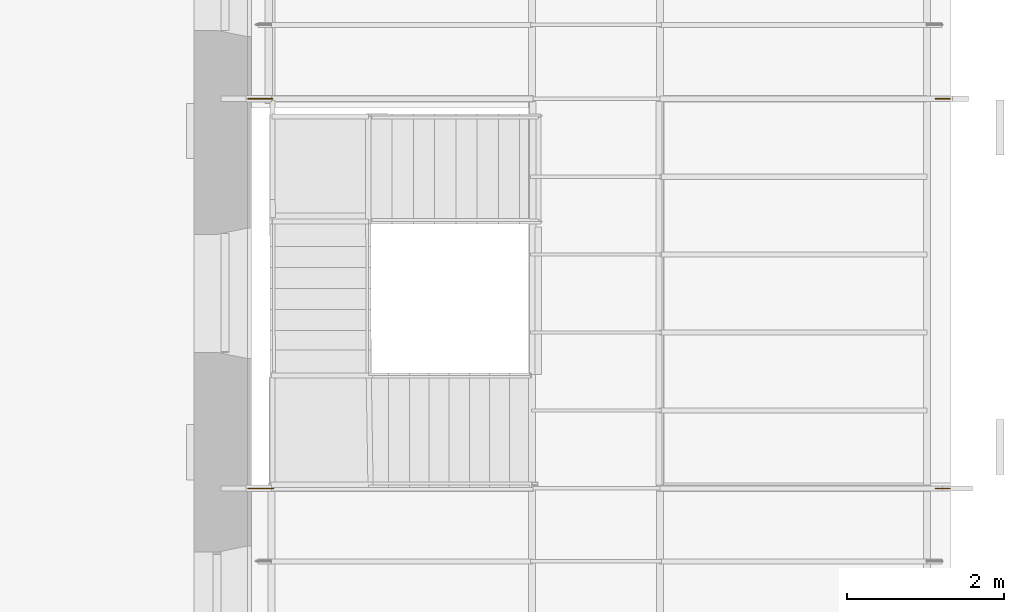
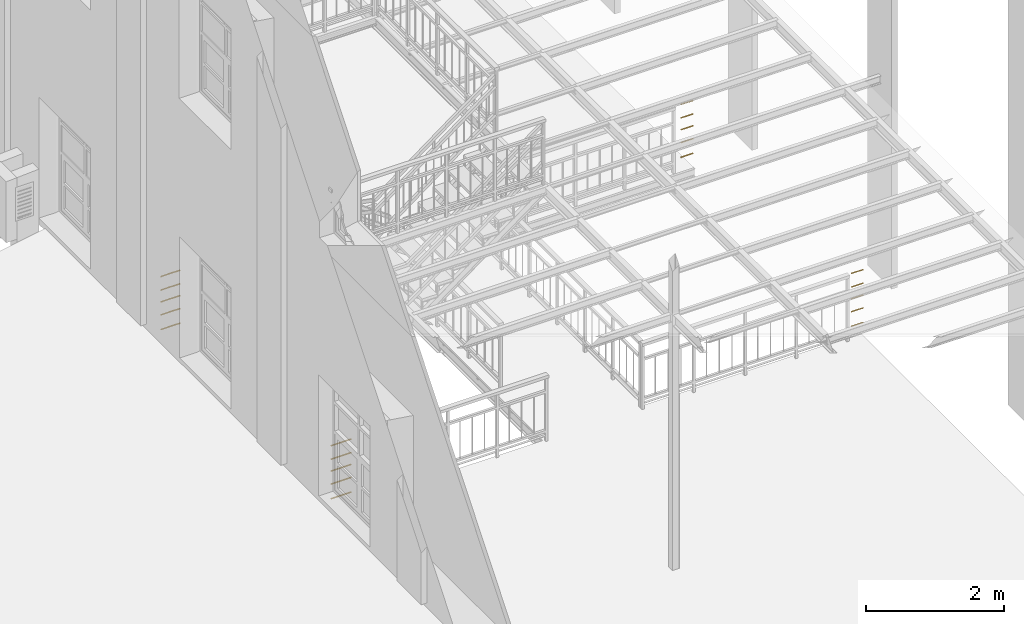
# One storey, part 25 of 33: 4 railings.
"""IFC2X3 building model written with IfcOpenShell, lengths in metres."""

from ifc_helpers import new_model, entity, si_unit, converted_unit, derived_unit, direction, frame, frame_2d, origin, origin_2d_with_axis, place, context, subcontext, project, spatial, circle, extrude, material, material_list, element, save


model = new_model("IFC2X3")

# Units and contexts
model_context = context("Model", 3, precision=1e-05, world=origin(), true_north=direction((6.12303176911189e-17, 1.0)))
body_context = subcontext(model_context, "Body", "Model", "MODEL_VIEW")
ifc_project = project(units=[si_unit("LENGTHUNIT", "METRE"), si_unit("AREAUNIT", "SQUARE_METRE"), si_unit("VOLUMEUNIT", "CUBIC_METRE"), converted_unit("PLANEANGLEUNIT", "DEGREE", entity("IfcRatioMeasure", 0.0174532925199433), si_unit("PLANEANGLEUNIT", "RADIAN"), dimensions=[0, 0, 0, 0, 0, 0, 0]), si_unit("MASSUNIT", "GRAM", prefix="KILO"), derived_unit("MASSDENSITYUNIT", [(si_unit("MASSUNIT", "GRAM", prefix="KILO"), 1), (si_unit("LENGTHUNIT", "METRE"), -3)]), derived_unit("MOMENTOFINERTIAUNIT", [(si_unit("LENGTHUNIT", "METRE"), 4)]), si_unit("TIMEUNIT", "SECOND"), si_unit("FREQUENCYUNIT", "HERTZ"), si_unit("THERMODYNAMICTEMPERATUREUNIT", "DEGREE_CELSIUS"), derived_unit("THERMALTRANSMITTANCEUNIT", [(si_unit("MASSUNIT", "GRAM", prefix="KILO"), 1), (si_unit("THERMODYNAMICTEMPERATUREUNIT", "KELVIN"), -1), (si_unit("TIMEUNIT", "SECOND"), -3)]), derived_unit("VOLUMETRICFLOWRATEUNIT", [(si_unit("LENGTHUNIT", "METRE"), 3), (si_unit("TIMEUNIT", "SECOND"), -1)]), si_unit("ELECTRICCURRENTUNIT", "AMPERE"), si_unit("ELECTRICVOLTAGEUNIT", "VOLT"), si_unit("POWERUNIT", "WATT"), si_unit("FORCEUNIT", "NEWTON", prefix="KILO"), si_unit("ILLUMINANCEUNIT", "LUX"), si_unit("LUMINOUSFLUXUNIT", "LUMEN"), si_unit("LUMINOUSINTENSITYUNIT", "CANDELA"), derived_unit("USERDEFINED", [(si_unit("MASSUNIT", "GRAM", prefix="KILO"), -1), (si_unit("LENGTHUNIT", "METRE"), -2), (si_unit("TIMEUNIT", "SECOND"), 3), (si_unit("LUMINOUSFLUXUNIT", "LUMEN"), 1)]), derived_unit("LINEARVELOCITYUNIT", [(si_unit("LENGTHUNIT", "METRE"), 1), (si_unit("TIMEUNIT", "SECOND"), -1)]), si_unit("PRESSUREUNIT", "PASCAL"), derived_unit("USERDEFINED", [(si_unit("LENGTHUNIT", "METRE"), -2), (si_unit("MASSUNIT", "GRAM", prefix="KILO"), 1), (si_unit("TIMEUNIT", "SECOND"), -2)]), derived_unit("LINEARFORCEUNIT", [(si_unit("MASSUNIT", "GRAM", prefix="KILO"), 1), (si_unit("LENGTHUNIT", "METRE"), 1), (si_unit("TIMEUNIT", "SECOND"), -2), (si_unit("LENGTHUNIT", "METRE"), -1)]), derived_unit("PLANARFORCEUNIT", [(si_unit("MASSUNIT", "GRAM", prefix="KILO"), 1), (si_unit("LENGTHUNIT", "METRE"), 1), (si_unit("TIMEUNIT", "SECOND"), -2), (si_unit("LENGTHUNIT", "METRE"), -2)])], contexts=[model_context])

# Site, building, storey
site_placement = place(None, origin())
site = spatial("IfcSite", under=ifc_project, at=site_placement, Name="Superficie", CompositionType="ELEMENT")
building_placement = place(site_placement, origin())
building = spatial("IfcBuilding", under=site, at=building_placement, Name="Telegestiones", CompositionType="ELEMENT")
storey_placement = place(building_placement, frame((0.0, 0.0, 4.94)))
storey = spatial("IfcBuildingStorey", under=building, at=storey_placement, Name="Nivel 1_NPT", CompositionType="ELEMENT", Elevation=4.94)

# Railings
ifc_material = material(Name="Hierro, dúctil")
ifc_material_list_1 = material_list([ifc_material, ifc_material, ifc_material, ifc_material, ifc_material])
railing_1_placement = place(storey_placement, origin())
element("IfcRailing", 1, at=railing_1_placement, inside=storey, material=ifc_material_list_1, Name="Barandilla:ARQ-BA-IN-HiGal-Varillas", ObjectType="Barandilla:ARQ-BA-IN-HiGal-Varillas", PredefinedType="NOTDEFINED", context=body_context, shape_type="SweptSolid", body=[
    extrude(circle(Radius=0.0075, at=frame_2d((0.0, -1.08286712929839e-15), x_axis=(1.0, 0.0))), frame((6.03428977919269, 1.48459406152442, 1.1725), z_axis=(1.0, 0.0, 0.0), x_axis=(0.0, 1.0, 0.0)), (0.0, 0.0, 1.0), 0.334522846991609),
    extrude(circle(Radius=0.0075, at=origin_2d_with_axis()), frame((6.03428977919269, 1.48459406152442, 0.932499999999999), z_axis=(1.0, 0.0, 0.0), x_axis=(0.0, 1.0, 0.0)), (0.0, 0.0, 1.0), 0.334522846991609),
    extrude(circle(Radius=0.0075, at=origin_2d_with_axis()), frame((6.03428977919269, 1.48459406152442, 0.722499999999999), z_axis=(1.0, 0.0, 0.0), x_axis=(0.0, 1.0, 0.0)), (0.0, 0.0, 1.0), 0.334522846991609),
    extrude(circle(Radius=0.0075, at=origin_2d_with_axis()), frame((6.03428977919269, 1.48459406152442, 0.4925), z_axis=(1.0, 0.0, 0.0), x_axis=(0.0, 1.0, 0.0)), (0.0, 0.0, 1.0), 0.334522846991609),
    extrude(circle(Radius=0.0075, at=frame_2d((0.0, -1.08286712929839e-15), x_axis=(1.0, 0.0))), frame((6.03428977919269, 1.48459406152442, 0.2325), z_axis=(1.0, 0.0, 0.0), x_axis=(0.0, 1.0, 0.0)), (0.0, 0.0, 1.0), 0.334522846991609),
])
ifc_material_list_2 = material_list([ifc_material, ifc_material, ifc_material, ifc_material, ifc_material])
railing_2_placement = place(storey_placement, origin())
element("IfcRailing", 2, at=railing_2_placement, inside=storey, material=ifc_material_list_2, Name="Barandilla:ARQ-BA-IN-HiGal-Varillas", ObjectType="Barandilla:ARQ-BA-IN-HiGal-Varillas", PredefinedType="NOTDEFINED", context=body_context, shape_type="SweptSolid", body=[
    extrude(circle(Radius=0.0075, at=frame_2d((0.0, -1.08286712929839e-15), x_axis=(1.0, 0.0))), frame((6.0342897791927, 6.43560722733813, 1.1725), z_axis=(1.0, 0.0, 0.0), x_axis=(0.0, 1.0, 0.0)), (0.0, 0.0, 1.0), 0.319522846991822),
    extrude(circle(Radius=0.0075, at=origin_2d_with_axis()), frame((6.0342897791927, 6.43560722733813, 0.932499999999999), z_axis=(1.0, 0.0, 0.0), x_axis=(0.0, 1.0, 0.0)), (0.0, 0.0, 1.0), 0.319522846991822),
    extrude(circle(Radius=0.0075, at=origin_2d_with_axis()), frame((6.0342897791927, 6.43560722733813, 0.722499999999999), z_axis=(1.0, 0.0, 0.0), x_axis=(0.0, 1.0, 0.0)), (0.0, 0.0, 1.0), 0.319522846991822),
    extrude(circle(Radius=0.0075, at=origin_2d_with_axis()), frame((6.0342897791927, 6.43560722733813, 0.4925), z_axis=(1.0, 0.0, 0.0), x_axis=(0.0, 1.0, 0.0)), (0.0, 0.0, 1.0), 0.319522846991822),
    extrude(circle(Radius=0.0075, at=frame_2d((0.0, -1.08286712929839e-15), x_axis=(1.0, 0.0))), frame((6.0342897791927, 6.43560722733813, 0.2325), z_axis=(1.0, 0.0, 0.0), x_axis=(0.0, 1.0, 0.0)), (0.0, 0.0, 1.0), 0.319522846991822),
])
ifc_material_list_3 = material_list([ifc_material, ifc_material, ifc_material, ifc_material, ifc_material])
railing_3_placement = place(storey_placement, origin())
element("IfcRailing", 3, at=railing_3_placement, inside=storey, material=ifc_material_list_3, Name="Barandilla:ARQ-BA-IN-HiGal-Varillas", ObjectType="Barandilla:ARQ-BA-IN-HiGal-Varillas", PredefinedType="NOTDEFINED", context=body_context, shape_type="SweptSolid", body=[
    extrude(circle(Radius=0.0075, at=origin_2d_with_axis()), frame((14.7658126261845, 6.43460722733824, 1.1725), z_axis=(1.0, 0.0, 0.0), x_axis=(0.0, -1.0, 0.0)), (0.0, 0.0, 1.0), 0.2),
    extrude(circle(Radius=0.0075, at=frame_2d((0.0, -1.08286712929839e-15), x_axis=(1.0, 0.0))), frame((14.7658126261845, 6.43460722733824, 0.932499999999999), z_axis=(1.0, 0.0, 0.0), x_axis=(0.0, -1.0, 0.0)), (0.0, 0.0, 1.0), 0.2),
    extrude(circle(Radius=0.0075, at=frame_2d((0.0, -1.08286712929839e-15), x_axis=(1.0, 0.0))), frame((14.7658126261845, 6.43460722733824, 0.722499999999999), z_axis=(1.0, 0.0, 0.0), x_axis=(0.0, -1.0, 0.0)), (0.0, 0.0, 1.0), 0.2),
    extrude(circle(Radius=0.0075, at=frame_2d((0.0, -1.08286712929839e-15), x_axis=(1.0, 0.0))), frame((14.7658126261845, 6.43460722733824, 0.4925), z_axis=(1.0, 0.0, 0.0), x_axis=(0.0, -1.0, 0.0)), (0.0, 0.0, 1.0), 0.2),
    extrude(circle(Radius=0.0075, at=origin_2d_with_axis()), frame((14.7658126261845, 6.43460722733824, 0.2325), z_axis=(1.0, 0.0, 0.0), x_axis=(0.0, -1.0, 0.0)), (0.0, 0.0, 1.0), 0.2),
])
ifc_material_list_4 = material_list([ifc_material, ifc_material, ifc_material, ifc_material, ifc_material])
railing_4_placement = place(storey_placement, origin())
element("IfcRailing", 4, at=railing_4_placement, inside=storey, material=ifc_material_list_4, Name="Barandilla:ARQ-BA-IN-HiGal-Varillas", ObjectType="Barandilla:ARQ-BA-IN-HiGal-Varillas", PredefinedType="NOTDEFINED", context=body_context, shape_type="SweptSolid", body=[
    extrude(circle(Radius=0.0075, at=origin_2d_with_axis()), frame((14.7648707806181, 1.48459406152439, 1.1725), z_axis=(1.0, 0.0, 0.0), x_axis=(0.0, -1.0, 0.0)), (0.0, 0.0, 1.0), 0.199941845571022),
    extrude(circle(Radius=0.0075, at=frame_2d((0.0, -1.08286712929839e-15), x_axis=(1.0, 0.0))), frame((14.7648707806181, 1.48459406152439, 0.932499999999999), z_axis=(1.0, 0.0, 0.0), x_axis=(0.0, -1.0, 0.0)), (0.0, 0.0, 1.0), 0.199941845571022),
    extrude(circle(Radius=0.0075, at=frame_2d((0.0, -1.08286712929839e-15), x_axis=(1.0, 0.0))), frame((14.7648707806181, 1.48459406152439, 0.722499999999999), z_axis=(1.0, 0.0, 0.0), x_axis=(0.0, -1.0, 0.0)), (0.0, 0.0, 1.0), 0.199941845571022),
    extrude(circle(Radius=0.0075, at=frame_2d((0.0, -1.08286712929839e-15), x_axis=(1.0, 0.0))), frame((14.7648707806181, 1.48459406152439, 0.4925), z_axis=(1.0, 0.0, 0.0), x_axis=(0.0, -1.0, 0.0)), (0.0, 0.0, 1.0), 0.199941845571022),
    extrude(circle(Radius=0.0075, at=origin_2d_with_axis()), frame((14.7648707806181, 1.48459406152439, 0.2325), z_axis=(1.0, 0.0, 0.0), x_axis=(0.0, -1.0, 0.0)), (0.0, 0.0, 1.0), 0.199941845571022),
])

save(model, "model.ifc")
